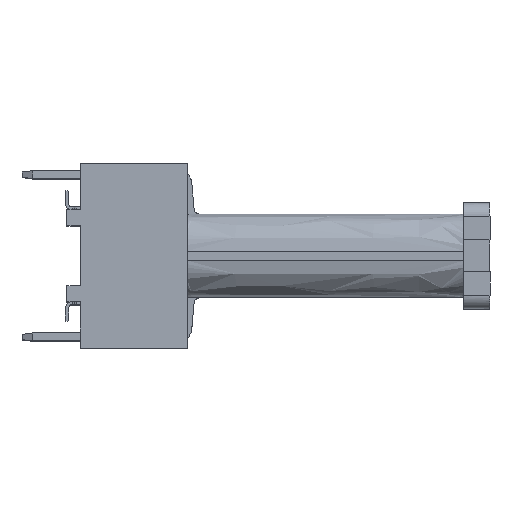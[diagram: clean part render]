
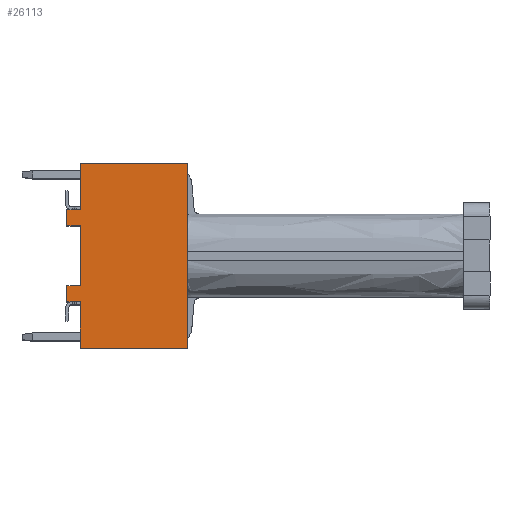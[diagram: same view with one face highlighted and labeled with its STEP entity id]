
A CAD part, top view. The second image highlights one B-rep face of the part: STEP entity #26113.
In plain terms, the highlighted planar face has unit normal (0, 0, 1).
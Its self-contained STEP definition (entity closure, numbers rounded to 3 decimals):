
#23270=CARTESIAN_POINT('',(2.2,1.765,0.));
#23271=VERTEX_POINT('',#23270);
#23288=CARTESIAN_POINT('',(2.2,2.365,0.));
#23289=VERTEX_POINT('',#23288);
#23296=CARTESIAN_POINT('',(2.2,4.635,0.));
#23297=VERTEX_POINT('',#23296);
#23298=CARTESIAN_POINT('',(2.2,2.365,0.));
#23299=DIRECTION('',(0.,1.0,0.));
#23300=VECTOR('',#23299,1.0);
#23301=LINE('',#23298,#23300);
#23302=EDGE_CURVE('no 15993',#23289,#23297,#23301,.T.);
#23320=CARTESIAN_POINT('',(2.2,5.235,0.));
#23321=VERTEX_POINT('',#23320);
#23328=CARTESIAN_POINT('',(2.2,7.0,0.));
#23329=VERTEX_POINT('',#23328);
#23330=CARTESIAN_POINT('',(2.2,5.235,0.));
#23331=DIRECTION('',(0.,1.0,0.));
#23332=VECTOR('',#23331,1.0);
#23333=LINE('',#23330,#23332);
#23334=EDGE_CURVE('no 19470',#23321,#23329,#23333,.T.);
#23375=CARTESIAN_POINT('',(2.2,-0.0,0.));
#23376=VERTEX_POINT('',#23375);
#23383=CARTESIAN_POINT('',(2.2,-0.0,0.));
#23384=DIRECTION('',(0.,1.0,0.));
#23385=VECTOR('',#23384,1.0);
#23386=LINE('',#23383,#23385);
#23387=EDGE_CURVE('no 28311',#23376,#23271,#23386,.T.);
#25972=CARTESIAN_POINT('',(1.7,1.765,0.));
#25973=VERTEX_POINT('',#25972);
#25974=CARTESIAN_POINT('',(2.2,1.765,0.));
#25975=DIRECTION('',(-1.0,-0.0,0.));
#25976=VECTOR('',#25975,1.0);
#25977=LINE('',#25974,#25976);
#25978=EDGE_CURVE('no 11667',#23271,#25973,#25977,.T.);
#26028=CARTESIAN_POINT('',(1.7,2.365,0.));
#26029=VERTEX_POINT('',#26028);
#26036=CARTESIAN_POINT('',(2.2,2.365,0.));
#26037=DIRECTION('',(-1.0,0.0,0.));
#26038=VECTOR('',#26037,1.0);
#26039=LINE('',#26036,#26038);
#26040=EDGE_CURVE('no 29414',#23289,#26029,#26039,.T.);
#26051=ORIENTED_EDGE('no 24095',*,*,#25978,.F.);
#26052=ORIENTED_EDGE('no 17154',*,*,#23387,.F.);
#26053=CARTESIAN_POINT('',(6.25,-0.0,0.));
#26054=VERTEX_POINT('',#26053);
#26055=CARTESIAN_POINT('',(2.2,-0.0,0.));
#26056=DIRECTION('',(1.0,-0.0,0.));
#26057=VECTOR('',#26056,1.0);
#26058=LINE('',#26055,#26057);
#26059=EDGE_CURVE('no 10296',#23376,#26054,#26058,.T.);
#26060=ORIENTED_EDGE('no 24832',*,*,#26059,.T.);
#26061=CARTESIAN_POINT('',(6.25,7.0,0.));
#26062=VERTEX_POINT('',#26061);
#26063=CARTESIAN_POINT('',(6.25,-0.0,0.));
#26064=DIRECTION('',(0.,1.0,0.));
#26065=VECTOR('',#26064,1.0);
#26066=LINE('',#26063,#26065);
#26067=EDGE_CURVE('no 38987',#26054,#26062,#26066,.T.);
#26068=ORIENTED_EDGE('no 50444',*,*,#26067,.T.);
#26069=CARTESIAN_POINT('',(6.25,7.0,0.));
#26070=DIRECTION('',(-1.0,0.0,0.));
#26071=VECTOR('',#26070,1.0);
#26072=LINE('',#26069,#26071);
#26073=EDGE_CURVE('no 44521',#26062,#23329,#26072,.T.);
#26074=ORIENTED_EDGE('no 15924',*,*,#26073,.T.);
#26075=ORIENTED_EDGE('no 48455',*,*,#23334,.F.);
#26076=CARTESIAN_POINT('',(1.7,5.235,0.));
#26077=VERTEX_POINT('',#26076);
#26078=CARTESIAN_POINT('',(2.2,5.235,0.));
#26079=DIRECTION('',(-1.0,0.0,0.));
#26080=VECTOR('',#26079,1.0);
#26081=LINE('',#26078,#26080);
#26082=EDGE_CURVE('no 38283',#23321,#26077,#26081,.T.);
#26083=ORIENTED_EDGE('no 22614',*,*,#26082,.T.);
#26084=CARTESIAN_POINT('',(1.7,4.635,0.));
#26085=VERTEX_POINT('',#26084);
#26086=CARTESIAN_POINT('',(1.7,5.235,0.));
#26087=DIRECTION('',(0.0,-1.0,0.));
#26088=VECTOR('',#26087,1.0);
#26089=LINE('',#26086,#26088);
#26090=EDGE_CURVE('no 14203',#26077,#26085,#26089,.T.);
#26091=ORIENTED_EDGE('no 10412',*,*,#26090,.T.);
#26092=CARTESIAN_POINT('',(1.7,4.635,0.));
#26093=DIRECTION('',(1.0,0.0,0.));
#26094=VECTOR('',#26093,1.0);
#26095=LINE('',#26092,#26094);
#26096=EDGE_CURVE('no 23711',#26085,#23297,#26095,.T.);
#26097=ORIENTED_EDGE('no 26854',*,*,#26096,.T.);
#26098=ORIENTED_EDGE('no 3118',*,*,#23302,.F.);
#26099=ORIENTED_EDGE('no 657',*,*,#26040,.T.);
#26100=CARTESIAN_POINT('',(1.7,2.365,0.));
#26101=DIRECTION('',(-0.0,-1.0,0.));
#26102=VECTOR('',#26101,1.0);
#26103=LINE('',#26100,#26102);
#26104=EDGE_CURVE('no 23499',#26029,#25973,#26103,.T.);
#26105=ORIENTED_EDGE('no 8051',*,*,#26104,.T.);
#26106=EDGE_LOOP('',(
    #26051,#26052,#26060,#26068,#26074,#26075,#26083,#26091,#26097,#26098,
    #26099,#26105));
#26107=FACE_OUTER_BOUND('',#26106,.T.);
#26108=CARTESIAN_POINT('',(6.25,7.0,0.));
#26109=DIRECTION('',(0.,0.,1.0));
#26110=DIRECTION('',(-1.0,0.0,0.));
#26111=AXIS2_PLACEMENT_3D('',#26108,#26109,#26110);
#26112=PLANE('',#26111);
#26113=ADVANCED_FACE('no 8905',(#26107),#26112,.T.);
